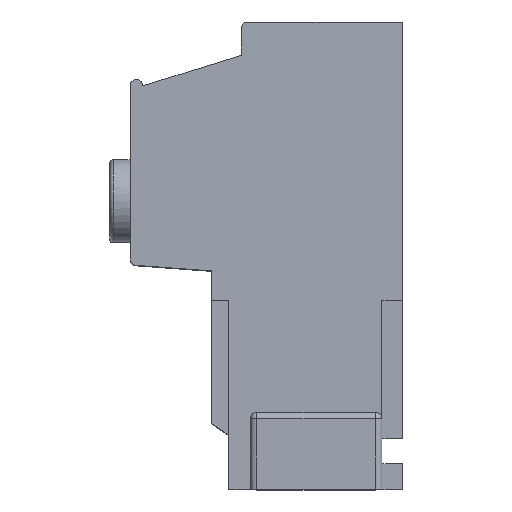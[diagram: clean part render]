
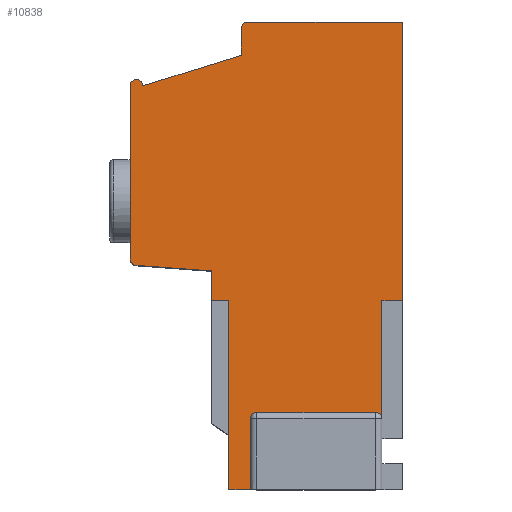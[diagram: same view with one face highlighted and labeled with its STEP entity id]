
A CAD part, top view. The second image highlights one B-rep face of the part: STEP entity #10838.
In plain terms, the highlighted planar face has unit normal (0, 0, 1).
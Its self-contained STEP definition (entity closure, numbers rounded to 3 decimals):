
#25=DIRECTION('',(0.,-1.,0.));
#26=VECTOR('',#25,2.333);
#27=CARTESIAN_POINT('',(8.,21.783,-14.231));
#28=LINE('',#27,#26);
#577=DIRECTION('',(1.,0.,0.));
#578=VECTOR('',#577,1.67);
#579=CARTESIAN_POINT('',(9.33,4.7,-14.231));
#580=LINE('',#579,#578);
#777=DIRECTION('',(0.,-1.,0.));
#778=VECTOR('',#777,14.75);
#779=CARTESIAN_POINT('',(9.33,19.45,-14.231));
#780=LINE('',#779,#778);
#833=DIRECTION('',(1.,0.,0.));
#834=VECTOR('',#833,1.33);
#835=CARTESIAN_POINT('',(8.,19.45,-14.231));
#836=LINE('',#835,#834);
#837=CARTESIAN_POINT('',(11.5,10.2,-14.231));
#838=DIRECTION('',(0.,0.,1.));
#839=DIRECTION('',(0.,1.,0.));
#840=AXIS2_PLACEMENT_3D('',#837,#838,#839);
#842=DIRECTION('',(0.,-1.,0.));
#843=VECTOR('',#842,5.5);
#844=CARTESIAN_POINT('',(11.,10.2,-14.231));
#845=LINE('',#844,#843);
#846=DIRECTION('',(-0.997,0.073,0.));
#847=VECTOR('',#846,5.952);
#848=CARTESIAN_POINT('',(8.,21.783,-14.231));
#849=LINE('',#848,#847);
#850=CARTESIAN_POINT('',(2.1,22.715,-14.231));
#851=DIRECTION('',(0.,0.,-1.));
#852=DIRECTION('',(-0.073,-0.997,0.));
#853=AXIS2_PLACEMENT_3D('',#850,#851,#852);
#855=DIRECTION('',(0.,1.,0.));
#856=VECTOR('',#855,13.535);
#857=CARTESIAN_POINT('',(1.6,22.715,-14.231));
#858=LINE('',#857,#856);
#859=CARTESIAN_POINT('',(2.1,36.25,-14.231));
#860=DIRECTION('',(0.,0.,-1.));
#861=DIRECTION('',(-1.,0.,0.));
#862=AXIS2_PLACEMENT_3D('',#859,#860,#861);
#864=DIRECTION('',(0.955,0.298,0.));
#865=VECTOR('',#864,8.065);
#866=CARTESIAN_POINT('',(2.6,36.25,-14.231));
#867=LINE('',#866,#865);
#868=CARTESIAN_POINT('',(10.8,40.75,-14.231));
#869=DIRECTION('',(0.,0.,-1.));
#870=DIRECTION('',(-1.,0.,0.));
#871=AXIS2_PLACEMENT_3D('',#868,#869,#870);
#873=DIRECTION('',(1.,0.,0.));
#874=VECTOR('',#873,12.1);
#875=CARTESIAN_POINT('',(10.8,41.25,-14.231));
#876=LINE('',#875,#874);
#877=DIRECTION('',(0.,-1.,0.));
#878=VECTOR('',#877,21.8);
#879=CARTESIAN_POINT('',(22.9,41.25,-14.231));
#880=LINE('',#879,#878);
#881=CARTESIAN_POINT('',(20.8,10.2,-14.231));
#882=DIRECTION('',(0.,0.,1.));
#883=DIRECTION('',(1.,0.,0.));
#884=AXIS2_PLACEMENT_3D('',#881,#882,#883);
#886=DIRECTION('',(1.,0.,0.));
#887=VECTOR('',#886,9.3);
#888=CARTESIAN_POINT('',(11.5,10.7,-14.231));
#889=LINE('',#888,#887);
#949=DIRECTION('',(0.,1.,0.));
#950=VECTOR('',#949,9.25);
#951=CARTESIAN_POINT('',(21.3,10.2,-14.231));
#952=LINE('',#951,#950);
#1001=DIRECTION('',(1.,0.,0.));
#1002=VECTOR('',#1001,1.6);
#1003=CARTESIAN_POINT('',(21.3,19.45,-14.231));
#1004=LINE('',#1003,#1002);
#1798=DIRECTION('',(0.,-1.,0.));
#1799=VECTOR('',#1798,2.1);
#1800=CARTESIAN_POINT('',(10.3,40.75,-14.231));
#1801=LINE('',#1800,#1799);
#7627=CARTESIAN_POINT('',(9.33,4.7,-14.231));
#7629=VERTEX_POINT('',#7627);
#7630=CARTESIAN_POINT('',(11.,4.7,-14.231));
#7631=VERTEX_POINT('',#7630);
#7812=CARTESIAN_POINT('',(9.33,19.45,-14.231));
#7813=VERTEX_POINT('',#7812);
#7835=CARTESIAN_POINT('',(8.,21.783,-14.231));
#7837=VERTEX_POINT('',#7835);
#7838=CARTESIAN_POINT('',(8.,19.45,-14.231));
#7839=VERTEX_POINT('',#7838);
#7862=CARTESIAN_POINT('',(2.064,22.216,-14.231));
#7864=VERTEX_POINT('',#7862);
#7891=CARTESIAN_POINT('',(1.6,22.715,-14.231));
#7893=VERTEX_POINT('',#7891);
#7894=CARTESIAN_POINT('',(1.6,36.25,-14.231));
#7896=VERTEX_POINT('',#7894);
#7938=CARTESIAN_POINT('',(2.6,36.25,-14.231));
#7939=VERTEX_POINT('',#7938);
#7986=CARTESIAN_POINT('',(22.9,41.25,-14.231));
#7988=VERTEX_POINT('',#7986);
#7990=CARTESIAN_POINT('',(10.8,41.25,-14.231));
#7991=VERTEX_POINT('',#7990);
#8008=CARTESIAN_POINT('',(22.9,19.45,-14.231));
#8009=VERTEX_POINT('',#8008);
#8080=CARTESIAN_POINT('',(21.3,10.2,-14.231));
#8081=VERTEX_POINT('',#8080);
#8082=CARTESIAN_POINT('',(21.3,19.45,-14.231));
#8083=VERTEX_POINT('',#8082);
#8114=CARTESIAN_POINT('',(11.,10.2,-14.231));
#8115=VERTEX_POINT('',#8114);
#8116=CARTESIAN_POINT('',(11.5,10.7,-14.231));
#8117=CARTESIAN_POINT('',(20.8,10.7,-14.231));
#8118=VERTEX_POINT('',#8116);
#8119=VERTEX_POINT('',#8117);
#8120=CARTESIAN_POINT('',(10.3,38.65,-14.231));
#8121=VERTEX_POINT('',#8120);
#8122=CARTESIAN_POINT('',(10.3,40.75,-14.231));
#8123=VERTEX_POINT('',#8122);
#10802=CARTESIAN_POINT('',(12.25,22.975,-14.231));
#10803=DIRECTION('',(0.,0.,1.));
#10804=DIRECTION('',(1.,0.,0.));
#10805=AXIS2_PLACEMENT_3D('',#10802,#10803,#10804);
#10806=PLANE('',#10805);
#10808=ORIENTED_EDGE('',*,*,#10807,.F.);
#10810=ORIENTED_EDGE('',*,*,#10809,.T.);
#10812=ORIENTED_EDGE('',*,*,#10811,.T.);
#10813=ORIENTED_EDGE('',*,*,#10506,.F.);
#10814=ORIENTED_EDGE('',*,*,#10715,.F.);
#10815=ORIENTED_EDGE('',*,*,#10794,.F.);
#10816=ORIENTED_EDGE('',*,*,#9544,.F.);
#10817=ORIENTED_EDGE('',*,*,#9582,.T.);
#10818=ORIENTED_EDGE('',*,*,#9627,.T.);
#10819=ORIENTED_EDGE('',*,*,#9642,.T.);
#10820=ORIENTED_EDGE('',*,*,#9707,.T.);
#10822=ORIENTED_EDGE('',*,*,#10821,.T.);
#10824=ORIENTED_EDGE('',*,*,#10823,.F.);
#10826=ORIENTED_EDGE('',*,*,#10825,.T.);
#10828=ORIENTED_EDGE('',*,*,#10827,.T.);
#10829=ORIENTED_EDGE('',*,*,#10403,.T.);
#10831=ORIENTED_EDGE('',*,*,#10830,.F.);
#10833=ORIENTED_EDGE('',*,*,#10832,.F.);
#10835=ORIENTED_EDGE('',*,*,#10834,.T.);
#10836=EDGE_LOOP('',(#10808,#10810,#10812,#10813,#10814,#10815,#10816,#10817,
#10818,#10819,#10820,#10822,#10824,#10826,#10828,#10829,#10831,#10833,#10835));
#10837=FACE_OUTER_BOUND('',#10836,.F.);
#10838=ADVANCED_FACE('',(#10837),#10806,.T.);
#841=CIRCLE('',#840,0.5);
#854=CIRCLE('',#853,0.5);
#863=CIRCLE('',#862,0.5);
#872=CIRCLE('',#871,0.5);
#885=CIRCLE('',#884,0.5);
#9544=EDGE_CURVE('',#7837,#7839,#28,.T.);
#9582=EDGE_CURVE('',#7837,#7864,#849,.T.);
#9627=EDGE_CURVE('',#7864,#7893,#854,.T.);
#9642=EDGE_CURVE('',#7893,#7896,#858,.T.);
#9707=EDGE_CURVE('',#7896,#7939,#863,.T.);
#10403=EDGE_CURVE('',#7988,#8009,#880,.T.);
#10506=EDGE_CURVE('',#7629,#7631,#580,.T.);
#10715=EDGE_CURVE('',#7813,#7629,#780,.T.);
#10794=EDGE_CURVE('',#7839,#7813,#836,.T.);
#10807=EDGE_CURVE('',#8118,#8119,#889,.T.);
#10809=EDGE_CURVE('',#8118,#8115,#841,.T.);
#10811=EDGE_CURVE('',#8115,#7631,#845,.T.);
#10821=EDGE_CURVE('',#7939,#8121,#867,.T.);
#10823=EDGE_CURVE('',#8123,#8121,#1801,.T.);
#10825=EDGE_CURVE('',#8123,#7991,#872,.T.);
#10827=EDGE_CURVE('',#7991,#7988,#876,.T.);
#10830=EDGE_CURVE('',#8083,#8009,#1004,.T.);
#10832=EDGE_CURVE('',#8081,#8083,#952,.T.);
#10834=EDGE_CURVE('',#8081,#8119,#885,.T.);
